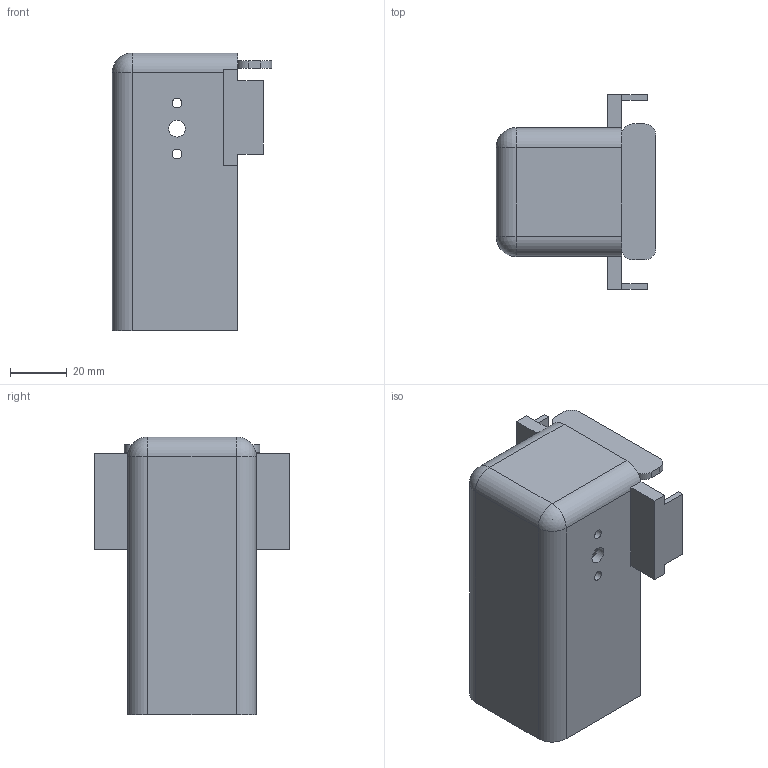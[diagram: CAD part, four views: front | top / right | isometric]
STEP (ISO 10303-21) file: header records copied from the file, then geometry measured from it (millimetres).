
FILE_DESCRIPTION(('Open CASCADE Model'),'2;1');
FILE_NAME('Open CASCADE Shape Model','2026-11-26T14:02:23',('Author'),( 'Open CASCADE'),'Open CASCADE STEP processor 7.9','Open CASCADE 7.9' ,'Unknown');
FILE_SCHEMA(('AUTOMOTIVE_DESIGN { 1 0 10303 214 1 1 1 1 }'));
Length unit declared in the file: millimetre
Products named in the file (1): Open CASCADE STEP translator 7.9 1
Bounding box: 56.4 x 68.8 x 98.2 mm (x, y, z)
Volume: 59820.2 mm3; surface area: 39380.2 mm2
Topology: 1 solids, 1 shells, 51 faces, 135 edges, 86 vertices
Faces by surface type: plane 34, cylinder 15, sphere 2
Full cylindrical faces by diameter (mm): 3.4 x4, 6 x2
Entity records: 3305 total; most frequent: CARTESIAN_POINT 593, DIRECTION 502, LINE 319, VECTOR 319, ORIENTED_EDGE 266, PCURVE 266, DEFINITIONAL_REPRESENTATION 266, EDGE_CURVE 133
